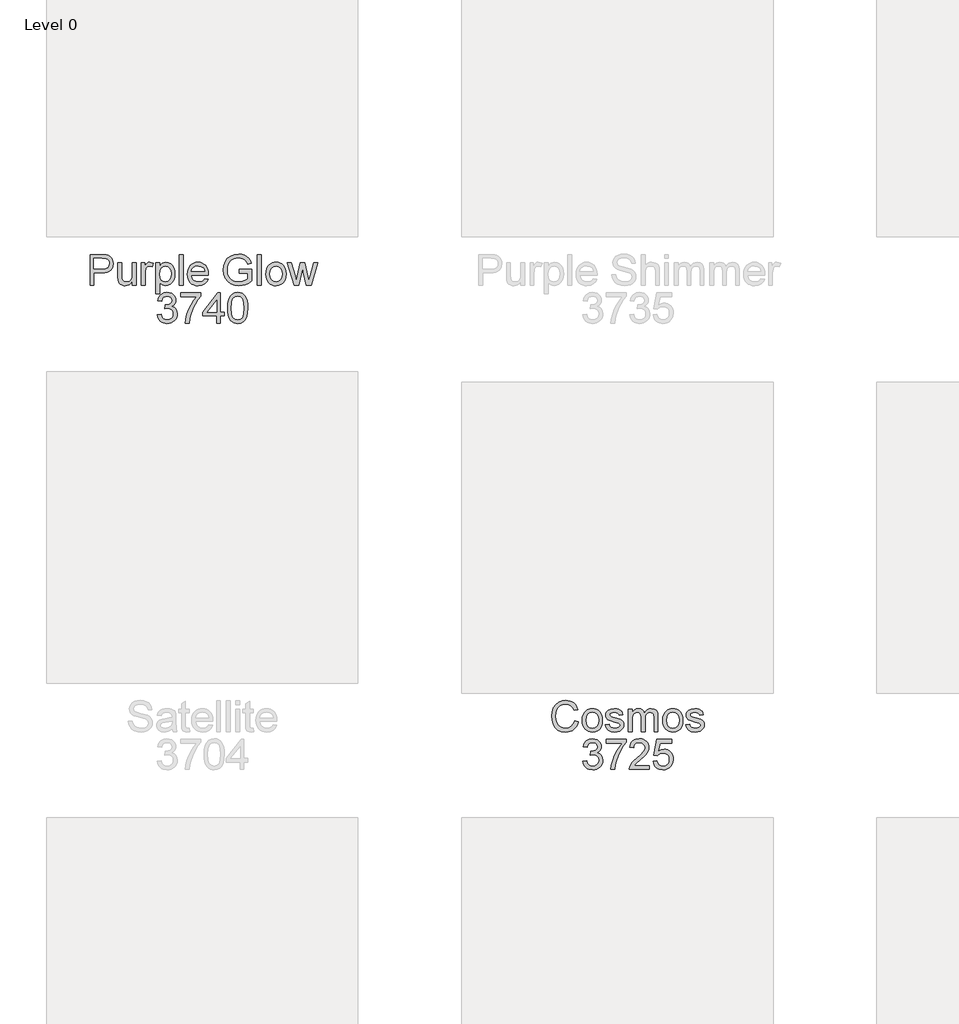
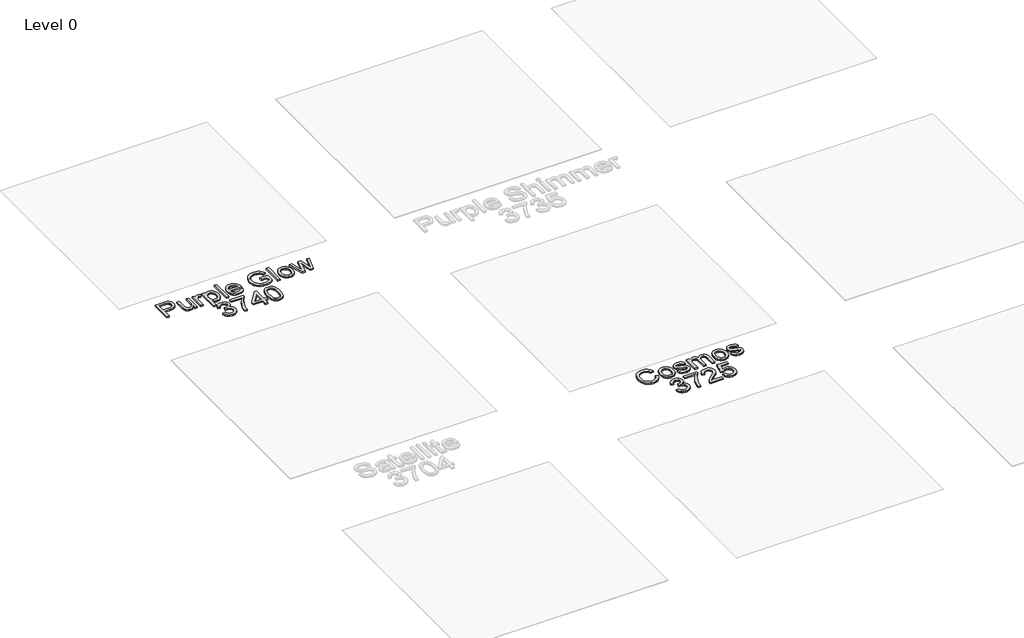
# One storey, part 4 of 14: 2 proxies.
"""IFC4 building model written with IfcOpenShell, lengths in millimetres."""

from ifc_helpers import new_model, si_unit, origin, origin_with_axes, place, context, project, spatial, polyline, outline, extrude, element, save

model = new_model("IFC4")

# Units and contexts
model_context = context("Model", 3, world=origin())
ifc_project = project(units=[si_unit("LENGTHUNIT", "METRE", prefix="MILLI")], contexts=[model_context])

# Site, building, storey
site = spatial("IfcSite", under=ifc_project)
building = spatial("IfcBuilding", under=site)
storey = spatial("IfcBuildingStorey", under=building, Name="Level 0", Elevation=0.0)

# Proxies
placement = place(None, origin())
element("IfcBuildingElementProxy", 1, Name="300mm Arial", ObjectType="300mm Arial", at=placement, inside=storey, context=model_context, shape_type="SweptSolid", body=[
    extrude(outline(polyline([(-9032.3444956, -6437.1730179), (-9032.3444956, -6141.7884025), (-8922.8733417, -6141.7884025), (-8878.7387264, -6144.6009025), (-8859.0602408, -6149.8563111), (-8842.8613225, -6158.4109986), (-8829.8174523, -6170.6525852), (-8819.604111, -6186.9686909), (-8813.0055533, -6206.2144842), (-8810.806034, -6227.2451332), (-8816.7465389, -6262.0588352), (-8824.1721699, -6277.2887029), (-8834.5680533, -6291.0672486), (-8848.8401386, -6302.4885227), (-8867.8943754, -6310.6465755), (-8891.7307636, -6315.5414073), (-8920.3493033, -6317.1730179), (-8995.4214187, -6317.1730179), (-8995.4214187, -6437.1730179), (-9032.3444956, -6437.1730179)]), holes=[polyline([(-8995.4214187, -6280.2499409), (-8918.1858417, -6280.2499409), (-8885.4454571, -6276.8605179), (-8863.8108417, -6266.6922486), (-8851.7495437, -6250.3761429), (-8847.729111, -6228.5432102), (-8850.0999042, -6211.9566717), (-8857.212284, -6197.9662871), (-8868.1828369, -6187.4374409), (-8882.1281494, -6181.2355179), (-8919.0512264, -6178.7114794), (-8995.4214187, -6178.7114794), (-8995.4214187, -6280.2499409)])]), origin_with_axes(), (0.0, 0.0, 1.0), 20.0),
    extrude(outline(polyline([(-8626.1906494, -6437.1730179), (-8626.1906494, -6399.889364), (-8639.5500244, -6418.2201933), (-8655.1089187, -6431.3136429), (-8672.8673321, -6439.1697126), (-8692.8252648, -6441.7884025), (-8710.8090389, -6439.9494602), (-8727.5488225, -6434.4326332), (-8741.5932937, -6426.139364), (-8751.4911302, -6415.9710948), (-8762.4887264, -6388.7835948), (-8764.6521879, -6354.4566717), (-8764.6521879, -6220.2499409), (-8727.729111, -6220.2499409), (-8727.729111, -6337.076864), (-8725.493534, -6374.7210948), (-8720.1119235, -6387.2781861), (-8710.8901687, -6396.8244602), (-8698.4412504, -6402.8551092), (-8683.3781494, -6404.8653255), (-8667.4496639, -6402.8100371), (-8652.5488225, -6396.6441717), (-8640.2621639, -6386.935638), (-8632.1762264, -6374.2523448), (-8627.6870437, -6356.8815515), (-8626.1906494, -6333.1105179), (-8626.1906494, -6220.2499409), (-8589.2675725, -6220.2499409), (-8589.2675725, -6437.1730179), (-8626.1906494, -6437.1730179)])), origin_with_axes(), (0.0, 0.0, 1.0), 20.0),
    extrude(outline(polyline([(-8538.4983417, -6437.1730179), (-8538.4983417, -6220.2499409), (-8506.1906494, -6220.2499409), (-8506.1906494, -6252.3412871), (-8494.2555533, -6233.7355179), (-8483.2579571, -6222.7739794), (-8472.2243033, -6217.4194121), (-8460.181034, -6215.6345563), (-8441.791611, -6218.483114), (-8423.1137264, -6227.0287871), (-8435.4454571, -6260.1297486), (-8448.4262264, -6254.4506621), (-8461.4069956, -6252.5576332), (-8472.431635, -6254.3785467), (-8482.2843994, -6259.8412871), (-8490.244135, -6268.5311909), (-8495.5896879, -6280.0335948), (-8500.0788706, -6300.6585948), (-8501.5752648, -6323.1585948), (-8501.5752648, -6437.1730179), (-8538.4983417, -6437.1730179)])), origin_with_axes(), (0.0, 0.0, 1.0), 20.0),
    extrude(outline(polyline([(-8400.0368033, -6520.2499409), (-8400.0368033, -6220.2499409), (-8363.1137264, -6220.2499409), (-8363.1137264, -6256.451864), (-8351.0704571, -6238.5942919), (-8337.5848802, -6225.8388832), (-8321.8637264, -6218.185638), (-8303.1137264, -6215.6345563), (-8278.1437744, -6219.2042679), (-8256.3108417, -6229.9134025), (-8238.5343994, -6247.1129217), (-8225.7339187, -6270.1537871), (-8217.9995437, -6297.3593159), (-8215.4214187, -6327.0528255), (-8218.3330773, -6358.6303496), (-8227.0680533, -6386.8725371), (-8241.3468994, -6410.3460948), (-8260.8901687, -6427.6177294), (-8283.6515869, -6438.2457342), (-8307.5848802, -6441.7884025), (-8324.5590389, -6439.4176092), (-8339.712284, -6432.3052294), (-8352.6840389, -6421.5690515), (-8363.1137264, -6408.326864), (-8363.1137264, -6520.2499409), (-8400.0368033, -6520.2499409)]), holes=[polyline([(-8363.1137264, -6330.4422486), (-8359.1203369, -6363.5432102), (-8347.1401687, -6386.6922486), (-8329.462885, -6400.3220563), (-8308.3781494, -6404.8653255), (-8286.9508658, -6400.1597967), (-8268.822861, -6386.0432102), (-8256.4640869, -6362.0468159), (-8252.3444956, -6327.701864), (-8256.3649283, -6294.7811909), (-8268.4262264, -6271.3076332), (-8286.0764667, -6257.2451332), (-8306.8637264, -6252.5576332), (-8327.7321158, -6257.5426092), (-8346.0584379, -6272.4975371), (-8358.8499042, -6296.9536669), (-8363.1137264, -6330.4422486)])]), origin_with_axes(), (0.0, 0.0, 1.0), 20.0),
    extrude(outline(polyline([(-8173.8829571, -6437.1730179), (-8173.8829571, -6141.7884025), (-8136.9598802, -6141.7884025), (-8136.9598802, -6437.1730179), (-8173.8829571, -6437.1730179)])), origin_with_axes(), (0.0, 0.0, 1.0), 20.0),
    extrude(outline(polyline([(-7929.7002648, -6372.5576332), (-7893.4983417, -6377.1730179), (-7906.5422119, -6404.4506621), (-7927.3565148, -6424.8412871), (-7955.4725004, -6437.5516236), (-7990.4214187, -6441.7884025), (-8013.3315749, -6439.9607282), (-8033.744736, -6434.4777054), (-8051.6609018, -6425.339334), (-8067.0800725, -6412.545614), (-8079.4794114, -6396.4526152), (-8088.3360821, -6377.4164073), (-8093.6500845, -6355.4369902), (-8095.4214187, -6330.514364), (-8093.6320557, -6304.7466356), (-8088.2639667, -6282.0347967), (-8079.3171518, -6262.3788472), (-8066.791611, -6245.7787871), (-8051.4130052, -6232.5906861), (-8033.9069956, -6223.170614), (-8014.2735821, -6217.5185707), (-7992.5127648, -6215.6345563), (-7971.4528189, -6217.5140635), (-7952.4075965, -6223.1525852), (-7935.3770977, -6232.5501212), (-7920.3613225, -6245.7066717), (-7908.1039607, -6262.2706741), (-7899.3487023, -6281.8905659), (-7894.0955473, -6304.5663472), (-7892.3444956, -6330.2980179), (-7892.5608417, -6340.2499409), (-8058.4983417, -6340.2499409), (-8052.1071158, -6367.8881621), (-8037.260361, -6388.2066717), (-8015.8330773, -6400.7006621), (-7989.7002648, -6404.8653255), (-7970.0488225, -6402.936239), (-7953.4983417, -6397.1489794), (-7940.0488225, -6387.1429698), (-7929.7002648, -6372.5576332)]), holes=[polyline([(-8058.4983417, -6303.326864), (-7929.2675725, -6303.326864), (-7934.2615629, -6283.8196525), (-7944.0512264, -6269.8653255), (-7965.5776687, -6256.8845563), (-7992.6569956, -6252.5576332), (-8017.5458177, -6256.0101573), (-8038.1257456, -6266.3677294), (-8052.431635, -6282.5125611), (-8058.4983417, -6303.326864)])]), origin_with_axes(), (0.0, 0.0, 1.0), 20.0),
    extrude(outline(polyline([(-7596.9598802, -6321.7884025), (-7596.9598802, -6284.8653255), (-7476.9598802, -6284.8653255), (-7476.9598802, -6395.2739794), (-7506.1215389, -6415.5564313), (-7536.2026687, -6430.1057102), (-7567.1311542, -6438.8677294), (-7598.8348802, -6441.7884025), (-7640.2561542, -6437.1459746), (-7677.6930533, -6423.2186909), (-7708.7928129, -6400.4933304), (-7731.2026687, -6369.4566717), (-7744.7513465, -6332.2271044), (-7749.2675725, -6290.9230179), (-7744.7693754, -6249.3214554), (-7731.274784, -6210.6225371), (-7709.3426927, -6178.1615996), (-7679.5319956, -6155.2739794), (-7643.2218994, -6141.6982582), (-7601.791611, -6137.1730179), (-7571.3769475, -6139.796215), (-7544.0271879, -6147.6658063), (-7520.9953369, -6160.2138832), (-7503.5343994, -6176.8725371), (-7490.6167312, -6198.4440515), (-7481.2146879, -6225.7307102), (-7515.2531494, -6235.3220563), (-7522.8523081, -6215.8599169), (-7532.0920917, -6201.1754217), (-7544.3156494, -6190.1057102), (-7560.8661302, -6181.4879217), (-7580.5987023, -6175.9440515), (-7602.368534, -6174.0960948), (-7627.8523081, -6176.0882823), (-7649.6401687, -6182.0648448), (-7667.650986, -6191.2775852), (-7681.8036302, -6202.9783063), (-7700.806034, -6231.4278255), (-7709.4598802, -6259.3004217), (-7712.3444956, -6289.4085948), (-7708.8739427, -6324.71809), (-7698.462284, -6353.7715755), (-7681.4250244, -6376.3617198), (-7658.0776687, -6392.2811909), (-7630.7549523, -6401.7192919), (-7601.791611, -6404.8653255), (-7576.2176927, -6402.4945323), (-7551.274784, -6395.3821525), (-7529.6131254, -6385.5834746), (-7513.8829571, -6375.1537871), (-7513.8829571, -6321.7884025), (-7596.9598802, -6321.7884025)])), origin_with_axes(), (0.0, 0.0, 1.0), 20.0),
    extrude(outline(polyline([(-7421.5752648, -6437.1730179), (-7421.5752648, -6141.7884025), (-7384.6521879, -6141.7884025), (-7384.6521879, -6437.1730179), (-7421.5752648, -6437.1730179)])), origin_with_axes(), (0.0, 0.0, 1.0), 20.0),
    extrude(outline(polyline([(-7338.4983417, -6328.7114794), (-7336.501647, -6300.6180299), (-7330.5115629, -6276.4097967), (-7320.5280893, -6256.0867799), (-7306.5512264, -6239.6489794), (-7292.4797119, -6229.1426693), (-7276.947861, -6221.6381621), (-7259.9556735, -6217.1354578), (-7241.5031494, -6215.6345563), (-7221.1328069, -6217.4622306), (-7202.7140869, -6222.9452534), (-7186.2469896, -6232.0836248), (-7171.7315148, -6244.8773448), (-7159.8843093, -6260.893721), (-7151.4220196, -6279.7000611), (-7146.3446458, -6301.2963652), (-7144.6521879, -6325.6826332), (-7147.6449764, -6362.9843159), (-7156.6233417, -6391.3797486), (-7171.3258658, -6412.6447727), (-7191.4911302, -6428.5552294), (-7215.4424523, -6438.4801092), (-7241.5031494, -6441.7884025), (-7262.1709679, -6439.967489), (-7280.7609619, -6434.5047486), (-7297.2731314, -6425.4001813), (-7311.7074764, -6412.6537871), (-7323.42848, -6396.4819121), (-7331.8006254, -6377.1009025), (-7336.8239127, -6354.5107582), (-7338.4983417, -6328.7114794)]), holes=[polyline([(-7301.5752648, -6328.639364), (-7297.3024283, -6362.0558304), (-7284.4839187, -6385.8629217), (-7265.1930533, -6400.1147246), (-7241.5031494, -6404.8653255), (-7217.9214187, -6400.0876813), (-7198.666611, -6385.7547486), (-7185.8481014, -6361.6321525), (-7181.5752648, -6327.4855179), (-7185.8751446, -6295.0426092), (-7198.774784, -6271.5600371), (-7218.056635, -6257.3082342), (-7241.5031494, -6252.5576332), (-7265.1930533, -6257.2902054), (-7284.4839187, -6271.4879217), (-7297.3024283, -6295.2409265), (-7301.5752648, -6328.639364)])]), origin_with_axes(), (0.0, 0.0, 1.0), 20.0),
    extrude(outline(polyline([(-7067.1281494, -6437.1730179), (-7133.1137264, -6220.2499409), (-7094.7483417, -6220.2499409), (-7057.3204571, -6346.8124409), (-7046.1425725, -6392.0287871), (-7036.9839187, -6348.4710948), (-7007.2002648, -6220.2499409), (-6963.2098802, -6220.2499409), (-6933.5704571, -6348.1105179), (-6925.4214187, -6387.5576332), (-6913.7387264, -6345.9470563), (-6876.2387264, -6220.2499409), (-6837.729111, -6220.2499409), (-6904.2194956, -6437.1730179), (-6948.8589187, -6437.1730179), (-6977.2002648, -6309.9614794), (-6985.4214187, -6270.2980179), (-7021.9839187, -6437.1730179), (-7067.1281494, -6437.1730179)])), origin_with_axes(), (0.0, 0.0, 1.0), 20.0),
    extrude(outline(polyline([(-8386.1906494, -6723.326864), (-8349.2675725, -6718.7114794), (-8341.0013465, -6741.9146044), (-8328.8949764, -6757.5816717), (-8312.35351, -6766.5059505), (-8290.7819956, -6769.4807102), (-8265.4694956, -6765.3881621), (-8245.9262264, -6753.1105179), (-8233.432236, -6734.7932102), (-8229.2675725, -6712.5816717), (-8233.3961783, -6691.4969361), (-8245.7819956, -6674.3965755), (-8264.5319956, -6663.0654457), (-8287.7531494, -6659.2884025), (-8313.6425725, -6663.326864), (-8309.5319956, -6626.4037871), (-8303.618534, -6626.8364794), (-8281.4971398, -6624.186239), (-8261.7194956, -6616.2355179), (-8247.7651687, -6602.7859986), (-8243.1137264, -6583.639364), (-8246.4851206, -6567.6928496), (-8256.5993033, -6554.7571525), (-8272.0319956, -6546.1844361), (-8291.3589187, -6543.326864), (-8310.7218994, -6546.2114794), (-8326.5512264, -6554.8653255), (-8338.1077167, -6569.2884025), (-8344.6521879, -6589.4807102), (-8381.5752648, -6584.8653255), (-8370.7038706, -6551.7102775), (-8351.3589187, -6526.9566717), (-8324.8925725, -6511.5420082), (-8292.6569956, -6506.4037871), (-8269.4448562, -6508.93684), (-8248.1257456, -6516.5359986), (-8230.150986, -6528.5251813), (-8216.9718994, -6544.2283063), (-8208.8859619, -6562.3202534), (-8206.1906494, -6581.4759025), (-8208.7507456, -6599.3244602), (-8216.431034, -6615.514364), (-8229.1233417, -6629.3064313), (-8246.7194956, -6639.9614794), (-8223.6065148, -6649.3004217), (-8206.479111, -6665.201864), (-8195.8781494, -6686.8004217), (-8192.3444956, -6713.2307102), (-8194.1113225, -6731.9626813), (-8199.4118033, -6749.2162871), (-8208.2459379, -6764.9915275), (-8220.6137264, -6779.2884025), (-8235.6813345, -6791.1513832), (-8252.6149283, -6799.6249409), (-8271.4145076, -6804.7090755), (-8292.0800725, -6806.4037871), (-8327.7771879, -6800.6165275), (-8343.1377648, -6793.3824529), (-8356.8396879, -6783.2547486), (-8368.3285701, -6770.8283664), (-8377.0500244, -6756.6982582), (-8386.1906494, -6723.326864)])), origin_with_axes(), (0.0, 0.0, 1.0), 20.0),
    extrude(outline(polyline([(-8160.0368033, -6547.9422486), (-8160.0368033, -6511.0191717), (-7966.1906494, -6511.0191717), (-7966.1906494, -6540.8749409), (-7993.8198562, -6575.841888), (-8021.1786302, -6620.3100371), (-8045.3102408, -6670.2228977), (-8063.2579571, -6721.5239794), (-8072.056034, -6759.9073929), (-8076.9598802, -6801.7884025), (-8113.8829571, -6801.7884025), (-8109.8895677, -6763.7295082), (-8099.2074764, -6718.4951332), (-8082.1251446, -6670.5474169), (-8058.931034, -6624.3484986), (-8031.8517071, -6582.5846765), (-8003.1137264, -6547.9422486), (-8160.0368033, -6547.9422486)])), origin_with_axes(), (0.0, 0.0, 1.0), 20.0),
    extrude(outline(polyline([(-7813.8829571, -6801.7884025), (-7813.8829571, -6732.5576332), (-7947.729111, -6732.5576332), (-7947.729111, -6695.6345563), (-7804.6521879, -6511.0191717), (-7776.9598802, -6511.0191717), (-7776.9598802, -6695.6345563), (-7740.0368033, -6695.6345563), (-7740.0368033, -6732.5576332), (-7776.9598802, -6732.5576332), (-7776.9598802, -6801.7884025), (-7813.8829571, -6801.7884025)]), holes=[polyline([(-7813.8829571, -6695.6345563), (-7813.8829571, -6581.5480179), (-7902.2964187, -6695.6345563), (-7813.8829571, -6695.6345563)])]), origin_with_axes(), (0.0, 0.0, 1.0), 20.0),
    extrude(outline(polyline([(-7707.729111, -6656.4759025), (-7705.0157696, -6609.1952534), (-7696.8757456, -6571.4879217), (-7683.3901687, -6542.7769842), (-7664.6401687, -6522.4855179), (-7640.4905292, -6510.4242198), (-7610.806034, -6506.4037871), (-7588.0536302, -6508.7835948), (-7567.681034, -6515.9230179), (-7550.6437744, -6527.5426092), (-7537.8973802, -6543.3629217), (-7528.2699764, -6563.248739), (-7520.5896879, -6587.0648448), (-7515.5596398, -6617.3082342), (-7513.8829571, -6656.4759025), (-7516.5692552, -6703.4861188), (-7524.6281494, -6741.1033063), (-7538.0325965, -6769.8412871), (-7556.7555533, -6790.2138832), (-7580.9592792, -6802.3563111), (-7610.806034, -6806.4037871), (-7631.1425725, -6804.6459746), (-7649.1714187, -6799.3725371), (-7664.8925725, -6790.5834746), (-7678.306034, -6778.2787871), (-7691.1786302, -6756.0356981), (-7700.3733417, -6728.3208544), (-7705.8901687, -6695.1342558), (-7707.729111, -6656.4759025)]), holes=[polyline([(-7670.806034, -6656.4037871), (-7666.479111, -6714.483715), (-7661.0704571, -6734.3492498), (-7653.4983417, -6748.0984986), (-7634.1714187, -6764.1351573), (-7610.806034, -6769.4807102), (-7587.4406494, -6764.1171284), (-7568.1137264, -6748.0263832), (-7560.541611, -6734.2545984), (-7555.1329571, -6714.3935707), (-7550.806034, -6656.4037871), (-7554.9887264, -6599.6309505), (-7560.2170917, -6579.8307703), (-7567.5368033, -6565.7547486), (-7586.8276687, -6548.9338352), (-7611.2387264, -6543.326864), (-7634.3517071, -6548.2667679), (-7652.9214187, -6563.0864794), (-7660.7459379, -6578.4109986), (-7666.3348802, -6599.0720563), (-7670.806034, -6656.4037871)])]), origin_with_axes(), (0.0, 0.0, 1.0), 20.0),
])
element("IfcBuildingElementProxy", 2, Name="300mm Arial", ObjectType="300mm Arial", at=placement, inside=storey, context=model_context, shape_type="SweptSolid", body=[
    extrude(outline(polyline([(-4364.6521879, -10632.1730179), (-4327.729111, -10641.6922486), (-4335.0353009, -10664.6542378), (-4344.7663706, -10684.71809), (-4356.9223201, -10701.8838051), (-4371.5031494, -10716.1513832), (-4388.1798321, -10727.3675792), (-4406.6233417, -10735.3791477), (-4426.8336783, -10740.1860888), (-4448.8108417, -10741.7884025), (-4491.6383658, -10736.9386429), (-4525.649784, -10722.389364), (-4551.7194956, -10698.6453736), (-4570.7218994, -10666.2114794), (-4582.3234619, -10628.0804698), (-4586.1906494, -10587.2451332), (-4581.8186542, -10544.1742198), (-4568.7026687, -10506.9807102), (-4547.5277889, -10476.8454938), (-4518.979111, -10454.9494602), (-4485.1209379, -10441.6171284), (-4448.0175725, -10437.1730179), (-4407.5337985, -10442.9242198), (-4389.9218694, -10450.1132222), (-4374.0632456, -10460.1778255), (-4360.2193453, -10472.8521044), (-4348.6515869, -10487.8701332), (-4332.3444956, -10524.9374409), (-4369.2675725, -10533.7355179), (-4382.0680533, -10506.8094361), (-4399.556034, -10488.3388832), (-4421.947861, -10477.6567919), (-4449.4598802, -10474.0960948), (-4481.1726206, -10478.0444121), (-4507.2243033, -10489.889364), (-4526.9929331, -10508.3869602), (-4539.8565148, -10532.2932102), (-4546.9148081, -10559.3184505), (-4549.2675725, -10587.1730179), (-4546.4821158, -10621.2835948), (-4538.1257456, -10650.7787871), (-4523.8829571, -10674.5317919), (-4503.4382456, -10691.4158063), (-4478.9280292, -10701.5029457), (-4452.4887264, -10704.8653255), (-4421.6684139, -10700.2859986), (-4395.9863225, -10686.5480179), (-4376.5962985, -10663.795614), (-4364.6521879, -10632.1730179)])), origin_with_axes(), (0.0, 0.0, 1.0), 20.0),
    extrude(outline(polyline([(-4290.806034, -10628.7114794), (-4288.8093393, -10600.6180299), (-4282.8192552, -10576.4097967), (-4272.8357816, -10556.0867799), (-4258.8589187, -10539.6489794), (-4244.7874042, -10529.1426693), (-4229.2555533, -10521.6381621), (-4212.2633658, -10517.1354578), (-4193.8108417, -10515.6345563), (-4173.4404992, -10517.4622306), (-4155.0217792, -10522.9452534), (-4138.5546819, -10532.0836248), (-4124.0392071, -10544.8773448), (-4112.1920016, -10560.893721), (-4103.7297119, -10579.7000611), (-4098.6523381, -10601.2963652), (-4096.9598802, -10625.6826332), (-4099.9526687, -10662.9843159), (-4108.931034, -10691.3797486), (-4123.6335581, -10712.6447727), (-4143.7988225, -10728.5552294), (-4167.7501446, -10738.4801092), (-4193.8108417, -10741.7884025), (-4214.4786602, -10739.967489), (-4233.0686542, -10734.5047486), (-4249.5808237, -10725.4001813), (-4264.0151687, -10712.6537871), (-4275.7361723, -10696.4819121), (-4284.1083177, -10677.1009025), (-4289.131605, -10654.5107582), (-4290.806034, -10628.7114794)]), holes=[polyline([(-4253.8829571, -10628.639364), (-4249.6101206, -10662.0558304), (-4236.791611, -10685.8629217), (-4217.5007456, -10700.1147246), (-4193.8108417, -10704.8653255), (-4170.229111, -10700.0876813), (-4150.9743033, -10685.7547486), (-4138.1557937, -10661.6321525), (-4133.8829571, -10627.4855179), (-4138.1828369, -10595.0426092), (-4151.0824764, -10571.5600371), (-4170.3643273, -10557.3082342), (-4193.8108417, -10552.5576332), (-4217.5007456, -10557.2902054), (-4236.791611, -10571.4879217), (-4249.6101206, -10595.2409265), (-4253.8829571, -10628.639364)])]), origin_with_axes(), (0.0, 0.0, 1.0), 20.0),
    extrude(outline(polyline([(-4069.2675725, -10672.5576332), (-4032.3444956, -10667.9422486), (-4026.5211783, -10683.7355179), (-4015.2531494, -10695.3460948), (-3998.4682937, -10702.4855179), (-3976.0944956, -10704.8653255), (-3953.9911302, -10702.6838352), (-3938.4502648, -10696.139364), (-3929.2555533, -10686.6561909), (-3926.1906494, -10675.6585948), (-3929.2735821, -10666.2475371), (-3938.5223802, -10659.0720563), (-3976.5271879, -10648.5432102), (-4032.1281494, -10630.4783063), (-4046.1996639, -10621.4007823), (-4056.3949764, -10609.3845563), (-4062.587885, -10595.1958544), (-4064.6521879, -10579.6009025), (-4062.993534, -10565.295013), (-4058.0175725, -10552.0888832), (-4050.1750244, -10540.5053496), (-4039.916611, -10531.0672486), (-4016.4430533, -10520.1417679), (-3984.6762264, -10515.6345563), (-3960.6437744, -10517.4464554), (-3939.7483417, -10522.8821525), (-3922.9454571, -10531.4097967), (-3911.1906494, -10542.4975371), (-3903.4021879, -10556.9656861), (-3898.4983417, -10575.6345563), (-3935.4214187, -10580.2499409), (-3940.0818754, -10568.6303496), (-3949.3036302, -10559.8773448), (-3963.1768273, -10554.3875611), (-3981.791611, -10552.5576332), (-4002.993534, -10554.3064313), (-4017.1281494, -10559.5528255), (-4025.0788706, -10567.1249409), (-4027.729111, -10575.8509025), (-4023.3300725, -10586.5960948), (-4009.556034, -10594.7451332), (-3977.7531494, -10602.6057102), (-3923.5584379, -10619.9855179), (-3909.243534, -10628.2968159), (-3898.3901687, -10639.6730179), (-3891.5482215, -10654.1501813), (-3889.2675725, -10671.764364), (-3891.9448562, -10689.9734986), (-3899.9767071, -10707.1009025), (-3913.056635, -10721.8034265), (-3930.8781494, -10732.7379217), (-3952.4045917, -10739.5257823), (-3976.5993033, -10741.7884025), (-4013.8288706, -10737.4254217), (-4040.9983417, -10724.3364794), (-4059.135361, -10702.6658063), (-4069.2675725, -10672.5576332)])), origin_with_axes(), (0.0, 0.0, 1.0), 20.0),
    extrude(outline(polyline([(-3847.729111, -10737.1730179), (-3847.729111, -10520.2499409), (-3810.806034, -10520.2499409), (-3810.806034, -10555.9470563), (-3799.7002648, -10539.5498207), (-3785.4214187, -10526.7042679), (-3768.4562744, -10518.4019842), (-3749.291611, -10515.6345563), (-3728.7567552, -10518.4560707), (-3712.2964187, -10526.920614), (-3700.0007456, -10540.4692919), (-3691.9598802, -10558.5432102), (-3678.5013465, -10539.7706741), (-3663.149784, -10526.3617198), (-3645.9051927, -10518.3163472), (-3626.7675725, -10515.6345563), (-3599.0121639, -10520.0966957), (-3578.4863225, -10533.483114), (-3565.8030292, -10556.154388), (-3561.5752648, -10588.4710948), (-3561.5752648, -10737.1730179), (-3598.4983417, -10737.1730179), (-3598.4983417, -10604.3364794), (-3601.9238225, -10573.5071525), (-3606.7375244, -10565.0065515), (-3614.3276687, -10558.326864), (-3624.0902889, -10553.9999409), (-3635.4214187, -10552.5576332), (-3655.4244235, -10556.2535467), (-3671.7315148, -10567.3412871), (-3682.5758658, -10586.5780659), (-3686.1906494, -10614.7210948), (-3686.1906494, -10737.1730179), (-3723.1137264, -10737.1730179), (-3723.1137264, -10600.2259025), (-3725.2501446, -10579.3484986), (-3731.6593994, -10564.4566717), (-3742.9364427, -10555.5323929), (-3759.6762264, -10552.5576332), (-3773.900986, -10554.5408063), (-3787.0079571, -10560.4903255), (-3797.8252648, -10570.2619602), (-3805.181034, -10583.7114794), (-3809.399784, -10602.3713352), (-3810.806034, -10627.7739794), (-3810.806034, -10737.1730179), (-3847.729111, -10737.1730179)])), origin_with_axes(), (0.0, 0.0, 1.0), 20.0),
    extrude(outline(polyline([(-3515.4214187, -10628.7114794), (-3513.4247239, -10600.6180299), (-3507.4346398, -10576.4097967), (-3497.4511663, -10556.0867799), (-3483.4743033, -10539.6489794), (-3469.4027889, -10529.1426693), (-3453.8709379, -10521.6381621), (-3436.8787504, -10517.1354578), (-3418.4262264, -10515.6345563), (-3398.0558838, -10517.4622306), (-3379.6371639, -10522.9452534), (-3363.1700665, -10532.0836248), (-3348.6545917, -10544.8773448), (-3336.8073862, -10560.893721), (-3328.3450965, -10579.7000611), (-3323.2677227, -10601.2963652), (-3321.5752648, -10625.6826332), (-3324.5680533, -10662.9843159), (-3333.5464187, -10691.3797486), (-3348.2489427, -10712.6447727), (-3368.4142071, -10728.5552294), (-3392.3655292, -10738.4801092), (-3418.4262264, -10741.7884025), (-3439.0940449, -10739.967489), (-3457.6840389, -10734.5047486), (-3474.1962083, -10725.4001813), (-3488.6305533, -10712.6537871), (-3500.3515569, -10696.4819121), (-3508.7237023, -10677.1009025), (-3513.7469896, -10654.5107582), (-3515.4214187, -10628.7114794)]), holes=[polyline([(-3478.4983417, -10628.639364), (-3474.2255052, -10662.0558304), (-3461.4069956, -10685.8629217), (-3442.1161302, -10700.1147246), (-3418.4262264, -10704.8653255), (-3394.8444956, -10700.0876813), (-3375.5896879, -10685.7547486), (-3362.7711783, -10661.6321525), (-3358.4983417, -10627.4855179), (-3362.7982215, -10595.0426092), (-3375.697861, -10571.5600371), (-3394.9797119, -10557.3082342), (-3418.4262264, -10552.5576332), (-3442.1161302, -10557.2902054), (-3461.4069956, -10571.4879217), (-3474.2255052, -10595.2409265), (-3478.4983417, -10628.639364)])]), origin_with_axes(), (0.0, 0.0, 1.0), 20.0),
    extrude(outline(polyline([(-3293.8829571, -10672.5576332), (-3256.9598802, -10667.9422486), (-3251.1365629, -10683.7355179), (-3239.868534, -10695.3460948), (-3223.0836783, -10702.4855179), (-3200.7098802, -10704.8653255), (-3178.6065148, -10702.6838352), (-3163.0656494, -10696.139364), (-3153.8709379, -10686.6561909), (-3150.806034, -10675.6585948), (-3153.8889667, -10666.2475371), (-3163.1377648, -10659.0720563), (-3201.1425725, -10648.5432102), (-3256.743534, -10630.4783063), (-3270.8150485, -10621.4007823), (-3281.010361, -10609.3845563), (-3287.2032696, -10595.1958544), (-3289.2675725, -10579.6009025), (-3287.6089187, -10565.295013), (-3282.6329571, -10552.0888832), (-3274.790409, -10540.5053496), (-3264.5319956, -10531.0672486), (-3241.0584379, -10520.1417679), (-3209.291611, -10515.6345563), (-3185.259159, -10517.4464554), (-3164.3637264, -10522.8821525), (-3147.5608417, -10531.4097967), (-3135.806034, -10542.4975371), (-3128.0175725, -10556.9656861), (-3123.1137264, -10575.6345563), (-3160.0368033, -10580.2499409), (-3164.69726, -10568.6303496), (-3173.9190148, -10559.8773448), (-3187.7922119, -10554.3875611), (-3206.4069956, -10552.5576332), (-3227.6089187, -10554.3064313), (-3241.743534, -10559.5528255), (-3249.6942552, -10567.1249409), (-3252.3444956, -10575.8509025), (-3247.9454571, -10586.5960948), (-3234.1714187, -10594.7451332), (-3202.368534, -10602.6057102), (-3148.1738225, -10619.9855179), (-3133.8589187, -10628.2968159), (-3123.0055533, -10639.6730179), (-3116.1636062, -10654.1501813), (-3113.8829571, -10671.764364), (-3116.5602408, -10689.9734986), (-3124.5920917, -10707.1009025), (-3137.6720196, -10721.8034265), (-3155.493534, -10732.7379217), (-3177.0199764, -10739.5257823), (-3201.2146879, -10741.7884025), (-3238.4442552, -10737.4254217), (-3265.6137264, -10724.3364794), (-3283.7507456, -10702.6658063), (-3293.8829571, -10672.5576332)])), origin_with_axes(), (0.0, 0.0, 1.0), 20.0),
    extrude(outline(polyline([(-4286.1906494, -11023.326864), (-4249.2675725, -11018.7114794), (-4241.0013465, -11041.9146044), (-4228.8949764, -11057.5816717), (-4212.35351, -11066.5059505), (-4190.7819956, -11069.4807102), (-4165.4694956, -11065.3881621), (-4145.9262264, -11053.1105179), (-4133.432236, -11034.7932102), (-4129.2675725, -11012.5816717), (-4133.3961783, -10991.4969361), (-4145.7819956, -10974.3965755), (-4164.5319956, -10963.0654457), (-4187.7531494, -10959.2884025), (-4213.6425725, -10963.326864), (-4209.5319956, -10926.4037871), (-4203.618534, -10926.8364794), (-4181.4971398, -10924.186239), (-4161.7194956, -10916.2355179), (-4147.7651687, -10902.7859986), (-4143.1137264, -10883.639364), (-4146.4851206, -10867.6928496), (-4156.5993033, -10854.7571525), (-4172.0319956, -10846.1844361), (-4191.3589187, -10843.326864), (-4210.7218994, -10846.2114794), (-4226.5512264, -10854.8653255), (-4238.1077167, -10869.2884025), (-4244.6521879, -10889.4807102), (-4281.5752648, -10884.8653255), (-4270.7038706, -10851.7102775), (-4251.3589187, -10826.9566717), (-4224.8925725, -10811.5420082), (-4192.6569956, -10806.4037871), (-4169.4448562, -10808.93684), (-4148.1257456, -10816.5359986), (-4130.150986, -10828.5251813), (-4116.9718994, -10844.2283063), (-4108.8859619, -10862.3202534), (-4106.1906494, -10881.4759025), (-4108.7507456, -10899.3244602), (-4116.431034, -10915.514364), (-4129.1233417, -10929.3064313), (-4146.7194956, -10939.9614794), (-4123.6065148, -10949.3004217), (-4106.479111, -10965.201864), (-4095.8781494, -10986.8004217), (-4092.3444956, -11013.2307102), (-4094.1113225, -11031.9626813), (-4099.4118033, -11049.2162871), (-4108.2459379, -11064.9915275), (-4120.6137264, -11079.2884025), (-4135.6813345, -11091.1513832), (-4152.6149283, -11099.6249409), (-4171.4145076, -11104.7090755), (-4192.0800725, -11106.4037871), (-4227.7771879, -11100.6165275), (-4243.1377648, -11093.3824529), (-4256.8396879, -11083.2547486), (-4268.3285701, -11070.8283664), (-4277.0500244, -11056.6982582), (-4286.1906494, -11023.326864)])), origin_with_axes(), (0.0, 0.0, 1.0), 20.0),
    extrude(outline(polyline([(-4060.0368033, -10847.9422486), (-4060.0368033, -10811.0191717), (-3866.1906494, -10811.0191717), (-3866.1906494, -10840.8749409), (-3893.8198562, -10875.841888), (-3921.1786302, -10920.3100371), (-3945.3102408, -10970.2228977), (-3963.2579571, -11021.5239794), (-3972.056034, -11059.9073929), (-3976.9598802, -11101.7884025), (-4013.8829571, -11101.7884025), (-4009.8895677, -11063.7295082), (-3999.2074764, -11018.4951332), (-3982.1251446, -10970.5474169), (-3958.931034, -10924.3484986), (-3931.8517071, -10882.5846765), (-3903.1137264, -10847.9422486), (-4060.0368033, -10847.9422486)])), origin_with_axes(), (0.0, 0.0, 1.0), 20.0),
    extrude(outline(polyline([(-3644.6521879, -11064.8653255), (-3644.6521879, -11101.7884025), (-3838.4983417, -11101.7884025), (-3834.5319956, -11076.3316717), (-3825.4274283, -11056.43684), (-3812.104111, -11037.1369602), (-3792.8312744, -11016.935638), (-3765.8781494, -10994.3364794), (-3726.0343994, -10958.9458544), (-3702.1281494, -10932.8220563), (-3690.1750244, -10911.6201332), (-3686.1906494, -10890.9951332), (-3689.9496639, -10872.5065515), (-3701.2267071, -10857.1369602), (-3718.5614427, -10846.779388), (-3740.493534, -10843.326864), (-3763.525385, -10846.6982582), (-3781.4190148, -10856.8124409), (-3792.9664908, -10872.8761429), (-3796.9598802, -10894.0960948), (-3833.8829571, -10889.4807102), (-3824.931635, -10853.7655659), (-3816.5549824, -10839.5182703), (-3805.5776687, -10827.6778255), (-3792.2520977, -10818.3704337), (-3776.8306735, -10811.7222967), (-3739.7002648, -10806.4037871), (-3719.9113526, -10807.8821525), (-3702.2994235, -10812.3172486), (-3686.8644776, -10819.7090755), (-3673.6065148, -10830.0576332), (-3662.9582276, -10842.5966957), (-3655.3523081, -10856.5600371), (-3650.7887564, -10871.9476573), (-3649.2675725, -10888.7595563), (-3650.9081975, -10906.4188111), (-3655.8300725, -10923.7715755), (-3664.5650485, -10941.4218159), (-3677.6449764, -10959.9734986), (-3698.4953369, -10982.1219361), (-3730.541611, -11010.5624409), (-3773.0175725, -11046.0792679), (-3789.6762264, -11064.8653255), (-3644.6521879, -11064.8653255)])), origin_with_axes(), (0.0, 0.0, 1.0), 20.0),
    extrude(outline(polyline([(-3607.729111, -11023.326864), (-3570.806034, -11018.7114794), (-3564.0271879, -11040.8779457), (-3552.2002648, -11056.7523448), (-3535.3793514, -11066.2986188), (-3513.618534, -11069.4807102), (-3487.1521879, -11065.0546284), (-3467.3204571, -11051.7763832), (-3454.9346398, -11031.1784265), (-3450.806034, -11004.7932102), (-3454.6732215, -10979.9494602), (-3466.274784, -10960.9470563), (-3485.7008658, -10948.8857582), (-3513.041611, -10944.8653255), (-3530.9532696, -10946.4698929), (-3545.4574764, -10951.2835948), (-3566.1906494, -10967.9422486), (-3603.1137264, -10963.326864), (-3570.806034, -10811.0191717), (-3427.729111, -10811.0191717), (-3427.729111, -10847.9422486), (-3540.9502648, -10847.9422486), (-3556.743534, -10929.2884025), (-3530.3673321, -10913.2787871), (-3502.729111, -10907.9422486), (-3484.7475905, -10909.5963953), (-3468.2309139, -10914.5588352), (-3453.1790809, -10922.8295683), (-3439.5920917, -10934.4085948), (-3428.3443453, -10948.5882823), (-3420.3102408, -10964.6609986), (-3415.489778, -10982.6267438), (-3413.8829571, -11002.4855179), (-3419.6702167, -11039.4085948), (-3426.9042913, -11055.8689313), (-3437.0319956, -11070.9951332), (-3452.3745437, -11086.4864193), (-3470.2771879, -11097.5516236), (-3490.7399283, -11104.1907462), (-3513.7627648, -11106.4037871), (-3550.0277889, -11100.7156861), (-3565.3951266, -11093.6055599), (-3578.9190148, -11083.6513832), (-3590.1712684, -11071.3489493), (-3598.7237023, -11057.1940515), (-3607.729111, -11023.326864)])), origin_with_axes(), (0.0, 0.0, 1.0), 20.0),
])

save(model, "model.ifc")
